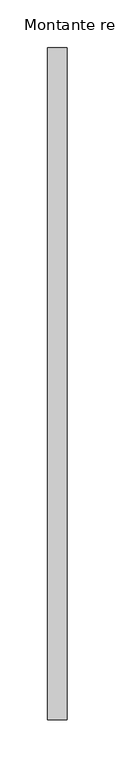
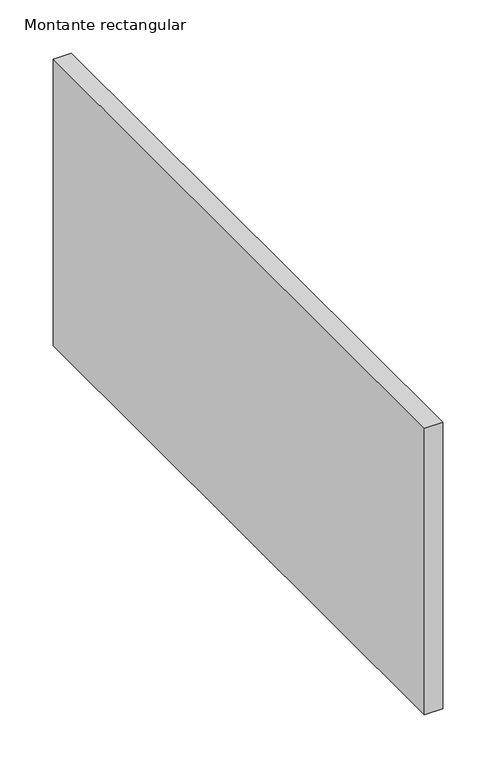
"""IFC4 building model written with IfcOpenShell, lengths in millimetres: member geometry, Montante rectangular : CIRCLES 2."""

from ifc_helpers import new_model, si_unit, frame, origin, place, context, project, spatial, polyline, outline, extrude, source, transform, mapped, element, save


def montante_rectangular_09a74246(model_context):
    return source(origin(), model_context, "Body", "SweptSolid", [
        extrude(outline(polyline([(0.0, 350.0), (0.0, -350.0), (-20.0, -350.0), (-20.0, 350.0), (0.0, 350.0)])), frame((0.0, 0.0, -329.8890788), z_axis=(0.0, 0.0, 1.0), x_axis=(1.0, 0.0, 0.0)), (0.0, 0.0, 1.0), 329.8890788),
    ])


if __name__ == "__main__":
    model = new_model("IFC4")
    model_context = context("Model", 3, world=origin())
    ifc_project = project(units=[si_unit("LENGTHUNIT", "METRE", prefix="MILLI")], contexts=[model_context])
    site = spatial("IfcSite", under=ifc_project)
    building = spatial("IfcBuilding", under=site)
    placement = place(None, origin())
    montante_rectangular_shape = montante_rectangular_09a74246(model_context)
    element("IfcMember", 1, ObjectType="Montante rectangular : CIRCLES 2", at=placement, inside=building, context=model_context, shape_type="MappedRepresentation", body=[
        mapped(montante_rectangular_shape, transform((0.0, 0.0, 0.0), x_axis=(1.0, 0.0, 0.0), y_axis=(0.0, 1.0, 0.0), z_axis=(0.0, 0.0, 1.0))),
    ])
    save(model, "model.ifc")
